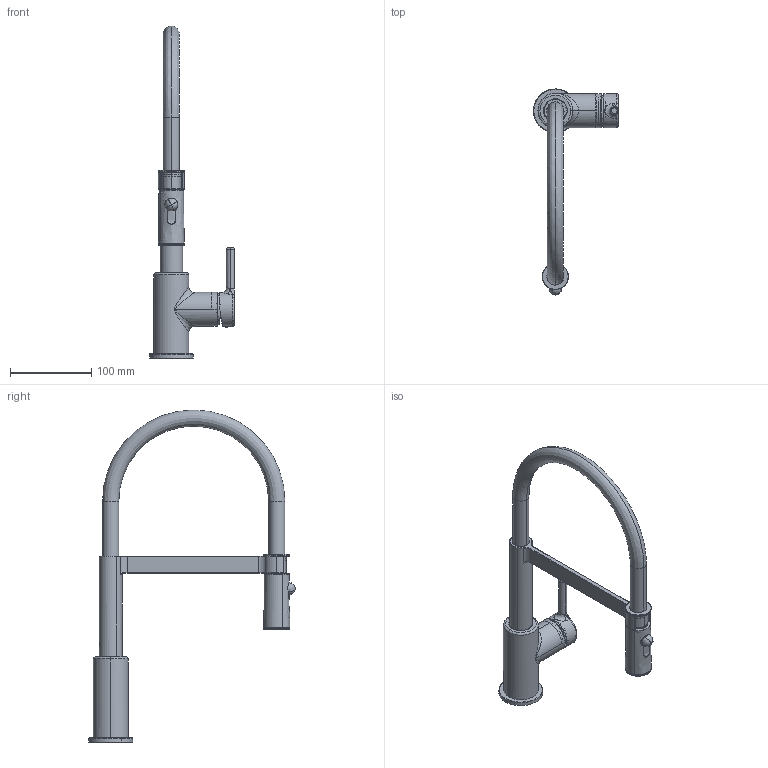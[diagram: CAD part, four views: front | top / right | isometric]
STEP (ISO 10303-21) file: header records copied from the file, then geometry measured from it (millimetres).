
FILE_DESCRIPTION(/* description */ (''),/* implementation_level */ '2;1');
FILE_NAME(/* name */ '3D001_Taps_Lina_Semi-Pro',/* time_stamp */ '2026-08-05T16:58:06+02:00',/* author */ (''),/* organization */ (''),/* preprocessor_version */ 'ST-DEVELOPER v19.2',/* originating_system */ 'Rhino 8.31',/* authorisation */ '');
FILE_SCHEMA (('CONFIG_CONTROL_DESIGN'));
Length unit declared in the file: millimetre
Products named in the file (18): Document; B20-0010A01-25XXX; B39-3219A03-15DDA; B30-4276XXX-13XXX; B28-1813A10-26XXX; B20-3219A06-13JGX; B05-3219A15-20XXX; B39-1601A07-17XXX; B13-3219A25-12MBP; Blocco 02; B20-3219A26-25XXX; B20-3219A17-26XXX; B26-3219A05-15DDA; B18-3219A12-20XXX; B27-200X800-22X; B28-3219B13-20XXX; B01-3219A02-15DDA; B20-3219A04-15DDA
Bounding box: 104.93 x 254.75 x 409.86 mm (x, y, z)
Volume: 166291.8 mm3; surface area: 163119.8 mm2
Topology: 28 solids, 36 shells, 1586 faces, 4073 edges, 2519 vertices
Faces by surface type: plane 640, bspline 506, cylinder 440
Entity records: 72924 total; most frequent: CARTESIAN_POINT 41799, ORIENTED_EDGE 7775, EDGE_CURVE 3994, B_SPLINE_CURVE_WITH_KNOTS 3025, DIRECTION 2751, VERTEX_POINT 2477, AXIS2_PLACEMENT_3D 1908, EDGE_LOOP 1664
